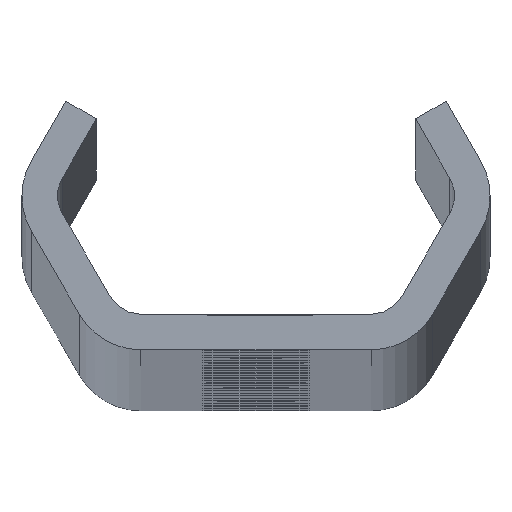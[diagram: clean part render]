
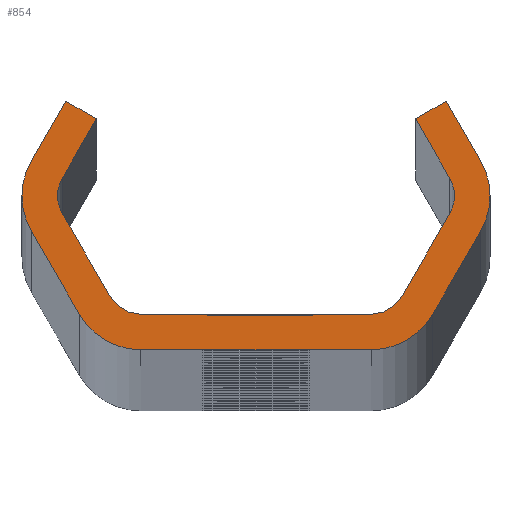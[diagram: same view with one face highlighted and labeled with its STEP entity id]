
A CAD part, top view. The second image highlights one B-rep face of the part: STEP entity #854.
In plain terms, the highlighted planar face has unit normal (0, 0, 1).
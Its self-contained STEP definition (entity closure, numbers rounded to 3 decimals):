
#854=ADVANCED_FACE('NONE',(#2388),#2389,.F.);
#2388=FACE_OUTER_BOUND('',#7783,.T.);
#2389=PLANE('',#7784);
#7783=EDGE_LOOP('',(#15909,#15910,#15911,#15912,#15913,#15914,#15915,#15916,#15917,#15918,#15919,#15920,#15921,#15922,#15923,#15924,#15925,#15926,#15927,#15928,#15929,#15930,#15931,#15932,#15933,#15934,#15935,#15936));
#7784=AXIS2_PLACEMENT_3D('',#15937,#15938,#15939);
#15909=ORIENTED_EDGE('',*,*,#21274,.F.);
#15910=ORIENTED_EDGE('',*,*,#21275,.T.);
#15911=ORIENTED_EDGE('',*,*,#20815,.T.);
#15912=ORIENTED_EDGE('',*,*,#21276,.T.);
#15913=ORIENTED_EDGE('',*,*,#21213,.T.);
#15914=ORIENTED_EDGE('',*,*,#21277,.T.);
#15915=ORIENTED_EDGE('',*,*,#20402,.T.);
#15916=ORIENTED_EDGE('',*,*,#21216,.T.);
#15917=ORIENTED_EDGE('',*,*,#21222,.T.);
#15918=ORIENTED_EDGE('',*,*,#21226,.T.);
#15919=ORIENTED_EDGE('',*,*,#21278,.T.);
#15920=ORIENTED_EDGE('',*,*,#20789,.T.);
#15921=ORIENTED_EDGE('',*,*,#21228,.T.);
#15922=ORIENTED_EDGE('',*,*,#21279,.T.);
#15923=ORIENTED_EDGE('',*,*,#21232,.T.);
#15924=ORIENTED_EDGE('',*,*,#21280,.T.);
#15925=ORIENTED_EDGE('',*,*,#20796,.T.);
#15926=ORIENTED_EDGE('',*,*,#21281,.T.);
#15927=ORIENTED_EDGE('',*,*,#20407,.T.);
#15928=ORIENTED_EDGE('',*,*,#20799,.T.);
#15929=ORIENTED_EDGE('',*,*,#20805,.T.);
#15930=ORIENTED_EDGE('',*,*,#20808,.T.);
#15931=ORIENTED_EDGE('',*,*,#20786,.T.);
#15932=ORIENTED_EDGE('',*,*,#21282,.T.);
#15933=ORIENTED_EDGE('',*,*,#20810,.T.);
#15934=ORIENTED_EDGE('',*,*,#21283,.T.);
#15935=ORIENTED_EDGE('',*,*,#20818,.T.);
#15936=ORIENTED_EDGE('',*,*,#21284,.T.);
#15937=CARTESIAN_POINT('',(0.0,0.0,2960.0));
#15938=DIRECTION('',(0.0,0.0,-1.0));
#15939=DIRECTION('',(0.0,-1.0,0.0));
#20402=EDGE_CURVE('NONE',#22725,#22729,#22731,.T.);
#20407=EDGE_CURVE('NONE',#22734,#22738,#22740,.T.);
#20786=EDGE_CURVE('NONE',#23422,#23420,#23423,.T.);
#20789=EDGE_CURVE('NONE',#23426,#23427,#23428,.T.);
#20796=EDGE_CURVE('NONE',#23440,#23438,#23441,.T.);
#20799=EDGE_CURVE('NONE',#22738,#23444,#23445,.T.);
#20805=EDGE_CURVE('NONE',#23444,#23452,#23454,.T.);
#20808=EDGE_CURVE('NONE',#23452,#23422,#23457,.T.);
#20810=EDGE_CURVE('NONE',#23459,#23460,#23461,.T.);
#20815=EDGE_CURVE('NONE',#23468,#23469,#23470,.T.);
#20818=EDGE_CURVE('NONE',#23475,#23473,#23476,.T.);
#21213=EDGE_CURVE('NONE',#24208,#24206,#24209,.T.);
#21216=EDGE_CURVE('NONE',#22729,#24212,#24213,.T.);
#21222=EDGE_CURVE('NONE',#24212,#24220,#24222,.T.);
#21226=EDGE_CURVE('NONE',#24220,#24226,#24228,.T.);
#21228=EDGE_CURVE('NONE',#23427,#24230,#24231,.T.);
#21232=EDGE_CURVE('NONE',#24236,#24237,#24238,.T.);
#21274=EDGE_CURVE('NONE',#24282,#24283,#24284,.T.);
#21275=EDGE_CURVE('NONE',#24282,#23468,#24285,.T.);
#21276=EDGE_CURVE('NONE',#23469,#24208,#24286,.T.);
#21277=EDGE_CURVE('NONE',#24206,#22725,#24287,.T.);
#21278=EDGE_CURVE('NONE',#24226,#23426,#24288,.T.);
#21279=EDGE_CURVE('NONE',#24230,#24236,#24289,.T.);
#21280=EDGE_CURVE('NONE',#24237,#23440,#24290,.T.);
#21281=EDGE_CURVE('NONE',#23438,#22734,#24291,.T.);
#21282=EDGE_CURVE('NONE',#23420,#23459,#24292,.T.);
#21283=EDGE_CURVE('NONE',#23460,#23475,#24293,.T.);
#21284=EDGE_CURVE('NONE',#23473,#24283,#24294,.T.);
#22725=VERTEX_POINT('',#26168);
#22729=VERTEX_POINT('NONE',#26173);
#22731=CIRCLE('',#26176,3.0);
#22734=VERTEX_POINT('',#26179);
#22738=VERTEX_POINT('NONE',#26184);
#22740=CIRCLE('',#26187,6.0);
#23420=VERTEX_POINT('NONE',#30265);
#23422=VERTEX_POINT('NONE',#30268);
#23423=CIRCLE('',#30269,3.0);
#23426=VERTEX_POINT('NONE',#30273);
#23427=VERTEX_POINT('NONE',#30274);
#23428=CIRCLE('',#30275,6.0);
#23438=VERTEX_POINT('NONE',#30288);
#23440=VERTEX_POINT('NONE',#30291);
#23441=LINE('',#30292,#30293);
#23444=VERTEX_POINT('NONE',#30297);
#23445=LINE('',#30298,#30299);
#23452=VERTEX_POINT('NONE',#30309);
#23454=LINE('',#30312,#30313);
#23457=LINE('',#30317,#30318);
#23459=VERTEX_POINT('NONE',#30320);
#23460=VERTEX_POINT('NONE',#30321);
#23461=LINE('',#30322,#30323);
#23468=VERTEX_POINT('NONE',#30333);
#23469=VERTEX_POINT('NONE',#30334);
#23470=LINE('',#30335,#30336);
#23473=VERTEX_POINT('NONE',#30340);
#23475=VERTEX_POINT('NONE',#30343);
#23476=LINE('',#30344,#30345);
#24206=VERTEX_POINT('NONE',#33027);
#24208=VERTEX_POINT('NONE',#33030);
#24209=LINE('',#33031,#33032);
#24212=VERTEX_POINT('NONE',#33036);
#24213=LINE('',#33037,#33038);
#24220=VERTEX_POINT('NONE',#33048);
#24222=LINE('',#33051,#33052);
#24226=VERTEX_POINT('NONE',#33057);
#24228=LINE('',#33060,#33061);
#24230=VERTEX_POINT('NONE',#33063);
#24231=LINE('',#33064,#33065);
#24236=VERTEX_POINT('NONE',#33072);
#24237=VERTEX_POINT('NONE',#33073);
#24238=LINE('',#33074,#33075);
#24282=VERTEX_POINT('NONE',#33122);
#24283=VERTEX_POINT('NONE',#33123);
#24284=LINE('',#33124,#33125);
#24285=LINE('',#33126,#33127);
#24286=CIRCLE('',#33128,3.0);
#24287=CIRCLE('',#33129,3.0);
#24288=CIRCLE('',#33130,6.0);
#24289=CIRCLE('',#33131,6.0);
#24290=CIRCLE('',#33132,6.0);
#24291=CIRCLE('',#33133,6.0);
#24292=CIRCLE('',#33134,3.0);
#24293=CIRCLE('',#33135,3.0);
#24294=LINE('',#33136,#33137);
#26168=CARTESIAN_POINT('',(-16.764,0.,2960.0));
#26173=CARTESIAN_POINT('',(-16.362,1.5,2960.0));
#26176=AXIS2_PLACEMENT_3D('',#39379,#39380,#39381);
#26179=CARTESIAN_POINT('',(19.764,0.,2960.0));
#26184=CARTESIAN_POINT('',(18.96,3.,2960.0));
#26187=AXIS2_PLACEMENT_3D('',#39387,#39388,#39389);
#30265=CARTESIAN_POINT('',(16.764,0.,2960.0));
#30268=CARTESIAN_POINT('',(16.362,1.5,2960.0));
#30269=AXIS2_PLACEMENT_3D('',#39766,#39767,#39768);
#30273=CARTESIAN_POINT('',(-19.764,0.,2960.0));
#30274=CARTESIAN_POINT('',(-18.96,-3.,2960.0));
#30275=AXIS2_PLACEMENT_3D('',#39770,#39771,#39772);
#30288=CARTESIAN_POINT('',(18.96,-3.,2960.0));
#30291=CARTESIAN_POINT('',(14.919,-10.,2960.0));
#30292=CARTESIAN_POINT('',(20.692,0.,2960.0));
#30293=VECTOR('',#39780,1000.0);
#30297=CARTESIAN_POINT('',(16.074,8.,2960.0));
#30298=CARTESIAN_POINT('',(16.074,8.,2960.0));
#30299=VECTOR('',#39782,1000.0);
#30309=CARTESIAN_POINT('',(13.475,6.5,2960.0));
#30312=CARTESIAN_POINT('',(13.475,6.5,2960.0));
#30313=VECTOR('',#39787,1000.0);
#30317=CARTESIAN_POINT('',(17.228,0.,2960.0));
#30318=VECTOR('',#39789,1000.0);
#30320=CARTESIAN_POINT('',(16.362,-1.5,2960.0));
#30321=CARTESIAN_POINT('',(12.321,-8.5,2960.0));
#30322=CARTESIAN_POINT('',(11.455,-10.0,2960.0));
#30323=VECTOR('',#39790,1000.0);
#30333=CARTESIAN_POINT('',(-4.063,-10.0,2960.0));
#30334=CARTESIAN_POINT('',(-9.723,-10.0,2960.0));
#30335=CARTESIAN_POINT('',(-11.455,-10.0,2960.0));
#30336=VECTOR('',#39794,1000.0);
#30340=CARTESIAN_POINT('',(-3.458,-10.0,2960.0));
#30343=CARTESIAN_POINT('',(9.723,-10.0,2960.0));
#30344=CARTESIAN_POINT('',(-11.455,-10.0,2960.0));
#30345=VECTOR('',#39797,1000.0);
#33027=CARTESIAN_POINT('',(-16.362,-1.5,2960.0));
#33030=CARTESIAN_POINT('',(-12.321,-8.5,2960.0));
#33031=CARTESIAN_POINT('',(-17.228,0.,2960.0));
#33032=VECTOR('',#40226,1000.0);
#33036=CARTESIAN_POINT('',(-13.475,6.5,2960.0));
#33037=CARTESIAN_POINT('',(-13.475,6.5,2960.0));
#33038=VECTOR('',#40228,1000.0);
#33048=CARTESIAN_POINT('',(-16.074,8.,2960.0));
#33051=CARTESIAN_POINT('',(-13.475,6.5,2960.0));
#33052=VECTOR('',#40233,1000.0);
#33057=CARTESIAN_POINT('',(-18.96,3.,2960.0));
#33060=CARTESIAN_POINT('',(-16.074,8.,2960.0));
#33061=VECTOR('',#40236,1000.0);
#33063=CARTESIAN_POINT('',(-14.919,-10.,2960.0));
#33064=CARTESIAN_POINT('',(-20.692,0.,2960.0));
#33065=VECTOR('',#40237,1000.0);
#33072=CARTESIAN_POINT('',(-9.723,-13.0,2960.0));
#33073=CARTESIAN_POINT('',(9.723,-13.0,2960.0));
#33074=CARTESIAN_POINT('',(-13.187,-13.0,2960.0));
#33075=VECTOR('',#40240,1000.0);
#33122=CARTESIAN_POINT('',(-4.063,-10.1,2960.0));
#33123=CARTESIAN_POINT('',(-3.458,-10.1,2960.0));
#33124=CARTESIAN_POINT('',(0.0,-10.1,2960.0));
#33125=VECTOR('',#40355,1000.0);
#33126=CARTESIAN_POINT('',(-4.063,0.,2960.0));
#33127=VECTOR('',#40356,1000.0);
#33128=AXIS2_PLACEMENT_3D('',#40357,#40358,#40359);
#33129=AXIS2_PLACEMENT_3D('',#40360,#40361,#40362);
#33130=AXIS2_PLACEMENT_3D('',#40363,#40364,#40365);
#33131=AXIS2_PLACEMENT_3D('',#40366,#40367,#40368);
#33132=AXIS2_PLACEMENT_3D('',#40369,#40370,#40371);
#33133=AXIS2_PLACEMENT_3D('',#40372,#40373,#40374);
#33134=AXIS2_PLACEMENT_3D('',#40375,#40376,#40377);
#33135=AXIS2_PLACEMENT_3D('',#40378,#40379,#40380);
#33136=CARTESIAN_POINT('',(-3.458,0.,2960.0));
#33137=VECTOR('',#40381,1000.0);
#39379=CARTESIAN_POINT('',(-13.764,0.,2960.0));
#39380=DIRECTION('',(0.0,0.0,-1.0));
#39381=DIRECTION('',(-1.0,0.0,0.0));
#39387=CARTESIAN_POINT('',(13.764,0.,2960.0));
#39388=DIRECTION('',(0.0,0.0,1.0));
#39389=DIRECTION('',(-1.0,0.0,0.0));
#39766=CARTESIAN_POINT('',(13.764,0.,2960.0));
#39767=DIRECTION('',(0.0,0.0,-1.0));
#39768=DIRECTION('',(-1.0,0.0,0.0));
#39770=CARTESIAN_POINT('',(-13.764,0.,2960.0));
#39771=DIRECTION('',(0.0,0.0,1.0));
#39772=DIRECTION('',(-1.0,0.0,0.0));
#39780=DIRECTION('',(0.5,0.866,-0.0));
#39782=DIRECTION('',(-0.5,0.866,-0.0));
#39787=DIRECTION('',(-0.866,-0.5,-0.0));
#39789=DIRECTION('',(0.5,-0.866,-0.0));
#39790=DIRECTION('',(-0.5,-0.866,-0.0));
#39794=DIRECTION('',(-1.0,0.,-0.0));
#39797=DIRECTION('',(-1.0,0.,-0.0));
#40226=DIRECTION('',(-0.5,0.866,-0.0));
#40228=DIRECTION('',(0.5,0.866,-0.0));
#40233=DIRECTION('',(-0.866,0.5,0.0));
#40236=DIRECTION('',(-0.5,-0.866,0.0));
#40237=DIRECTION('',(0.5,-0.866,0.0));
#40240=DIRECTION('',(1.0,0.0,0.0));
#40355=DIRECTION('',(1.0,0.0,0.0));
#40356=DIRECTION('',(0.,1.0,0.0));
#40357=CARTESIAN_POINT('',(-9.723,-7.0,2960.0));
#40358=DIRECTION('',(0.0,0.0,-1.0));
#40359=DIRECTION('',(-1.0,0.0,0.0));
#40360=CARTESIAN_POINT('',(-13.764,0.,2960.0));
#40361=DIRECTION('',(0.0,0.0,-1.0));
#40362=DIRECTION('',(-1.0,0.0,0.0));
#40363=CARTESIAN_POINT('',(-13.764,0.,2960.0));
#40364=DIRECTION('',(0.0,0.0,1.0));
#40365=DIRECTION('',(-1.0,0.,0.0));
#40366=CARTESIAN_POINT('',(-9.723,-7.0,2960.0));
#40367=DIRECTION('',(0.0,0.0,1.0));
#40368=DIRECTION('',(-1.0,0.0,0.0));
#40369=CARTESIAN_POINT('',(9.723,-7.0,2960.0));
#40370=DIRECTION('',(0.0,0.0,1.0));
#40371=DIRECTION('',(-1.0,0.,0.0));
#40372=CARTESIAN_POINT('',(13.764,0.,2960.0));
#40373=DIRECTION('',(0.0,0.0,1.0));
#40374=DIRECTION('',(-1.0,0.0,0.0));
#40375=CARTESIAN_POINT('',(13.764,0.,2960.0));
#40376=DIRECTION('',(0.0,0.0,-1.0));
#40377=DIRECTION('',(-1.0,0.0,0.0));
#40378=CARTESIAN_POINT('',(9.723,-7.0,2960.0));
#40379=DIRECTION('',(0.0,0.0,-1.0));
#40380=DIRECTION('',(-1.0,0.0,0.0));
#40381=DIRECTION('',(0.,-1.0,0.0));
